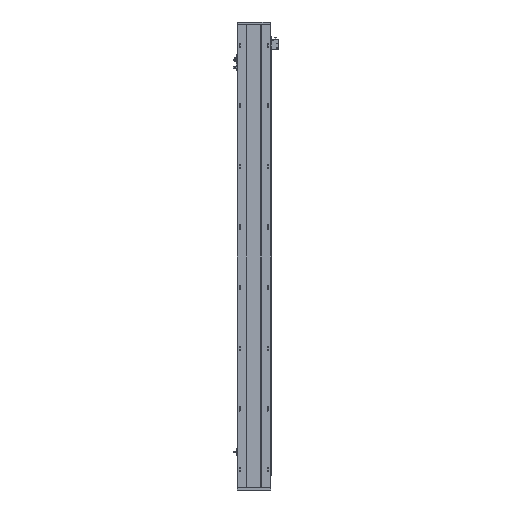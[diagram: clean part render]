
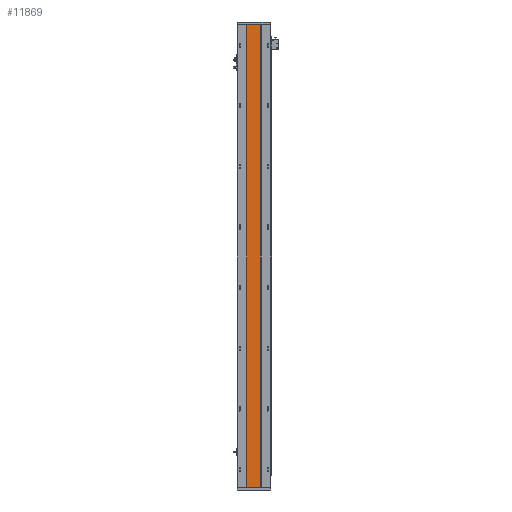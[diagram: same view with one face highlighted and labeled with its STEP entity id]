
A CAD part, front view. The second image highlights one B-rep face of the part: STEP entity #11869.
In plain terms, the highlighted planar face has unit normal (0, -1, 0).
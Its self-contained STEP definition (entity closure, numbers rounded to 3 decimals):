
#624 = VECTOR ( 'NONE', #23590, 1000. ) ;
#632 = FACE_OUTER_BOUND ( 'NONE', #2524, .T. ) ;
#1601 = CARTESIAN_POINT ( 'NONE',  ( 183.063, 115.96, 1648. ) ) ;
#2232 = DIRECTION ( 'NONE',  ( 1., 0., 0. ) ) ;
#2524 = EDGE_LOOP ( 'NONE', ( #10119, #27171, #8447, #23785 ) ) ;
#2631 = VERTEX_POINT ( 'NONE', #8118 ) ;
#2913 = CARTESIAN_POINT ( 'NONE',  ( 0., 115.96, 1648. ) ) ;
#3790 = EDGE_CURVE ( 'NONE', #2631, #7997, #6554, .T. ) ;
#4412 = EDGE_CURVE ( 'NONE', #19818, #28137, #4452, .T. ) ;
#4452 = LINE ( 'NONE', #24637, #7198 ) ;
#5118 = VECTOR ( 'NONE', #7615, 1000. ) ;
#5840 = LINE ( 'NONE', #23227, #5118 ) ;
#6554 = LINE ( 'NONE', #1601, #624 ) ;
#7198 = VECTOR ( 'NONE', #15552, 1000. ) ;
#7615 = DIRECTION ( 'NONE',  ( 1., 0., 0. ) ) ;
#7717 = EDGE_CURVE ( 'NONE', #28137, #7997, #7751, .T. ) ;
#7751 = LINE ( 'NONE', #28763, #8469 ) ;
#7997 = VERTEX_POINT ( 'NONE', #18484 ) ;
#8118 = CARTESIAN_POINT ( 'NONE',  ( 183.063, 115.96, 1648. ) ) ;
#8447 = ORIENTED_EDGE ( 'NONE', *, *, #16490, .F. ) ;
#8469 = VECTOR ( 'NONE', #2232, 1000. ) ;
#9374 = DIRECTION ( 'NONE',  ( -1., 0., 0. ) ) ;
#10119 = ORIENTED_EDGE ( 'NONE', *, *, #7717, .T. ) ;
#11869 = ADVANCED_FACE ( 'NONE', ( #632 ), #26955, .F. ) ;
#12344 = CARTESIAN_POINT ( 'NONE',  ( 133.07, 115.96, 0. ) ) ;
#12811 = CARTESIAN_POINT ( 'NONE',  ( 133.07, 115.96, 1648. ) ) ;
#15552 = DIRECTION ( 'NONE',  ( 0., 0., -1. ) ) ;
#16490 = EDGE_CURVE ( 'NONE', #19818, #2631, #5840, .T. ) ;
#18484 = CARTESIAN_POINT ( 'NONE',  ( 183.063, 115.96, 0. ) ) ;
#19818 = VERTEX_POINT ( 'NONE', #12811 ) ;
#21188 = DIRECTION ( 'NONE',  ( 0., 1., 0. ) ) ;
#23227 = CARTESIAN_POINT ( 'NONE',  ( 0., 115.96, 1648. ) ) ;
#23590 = DIRECTION ( 'NONE',  ( 0., 0., -1. ) ) ;
#23785 = ORIENTED_EDGE ( 'NONE', *, *, #4412, .T. ) ;
#24637 = CARTESIAN_POINT ( 'NONE',  ( 133.07, 115.96, 1648. ) ) ;
#26312 = AXIS2_PLACEMENT_3D ( 'NONE', #2913, #21188, #9374 ) ;
#26955 = PLANE ( 'NONE',  #26312 ) ;
#27171 = ORIENTED_EDGE ( 'NONE', *, *, #3790, .F. ) ;
#28137 = VERTEX_POINT ( 'NONE', #12344 ) ;
#28763 = CARTESIAN_POINT ( 'NONE',  ( 0., 115.96, 0. ) ) ;
